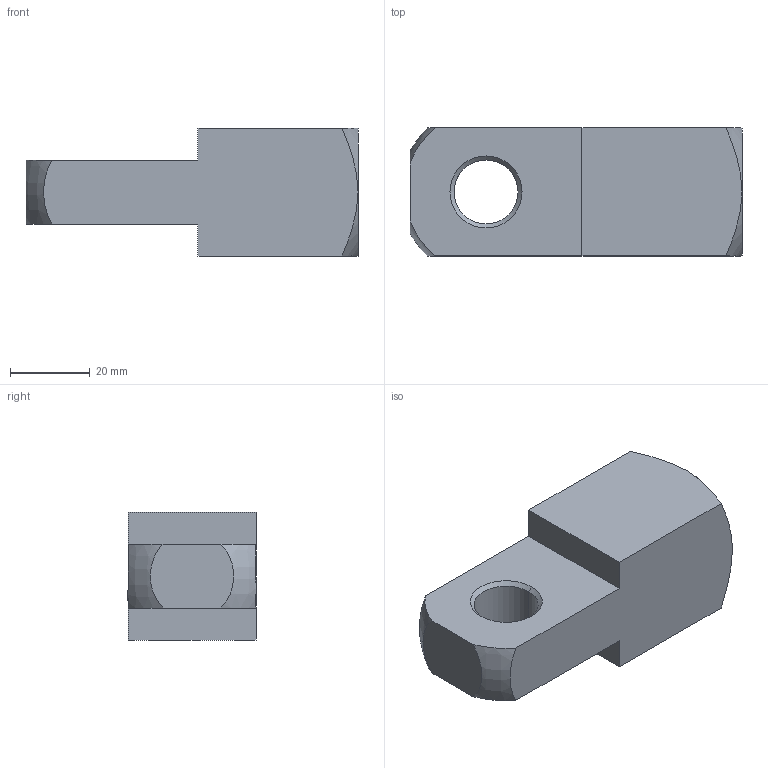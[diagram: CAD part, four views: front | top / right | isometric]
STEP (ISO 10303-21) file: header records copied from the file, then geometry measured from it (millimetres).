
FILE_DESCRIPTION (( 'STEP AP203' ), '1' );
FILE_NAME ('65653.W1017.step', '2014-01-22T12:18:07', ( 'User' ), ( '' ), 'SwSTEP 2.0', 'SolidWorks 2009', '' );
FILE_SCHEMA (( 'CONFIG_CONTROL_DESIGN' ));
Length unit declared in the file: millimetre
Products named in the file (1): 65653.W1017
Bounding box: 83 x 32 x 32 mm (x, y, z)
Volume: 51359.2 mm3; surface area: 13173.7 mm2
Topology: 1 solids, 1 shells, 31 faces, 74 edges, 45 vertices
Faces by surface type: cone 12, plane 11, cylinder 6, torus 2
Entity records: 1107 total; most frequent: CARTESIAN_POINT 317, DIRECTION 152, ORIENTED_EDGE 144, EDGE_CURVE 72, AXIS2_PLACEMENT_3D 60, VERTEX_POINT 45, EDGE_LOOP 35, VECTOR 32
